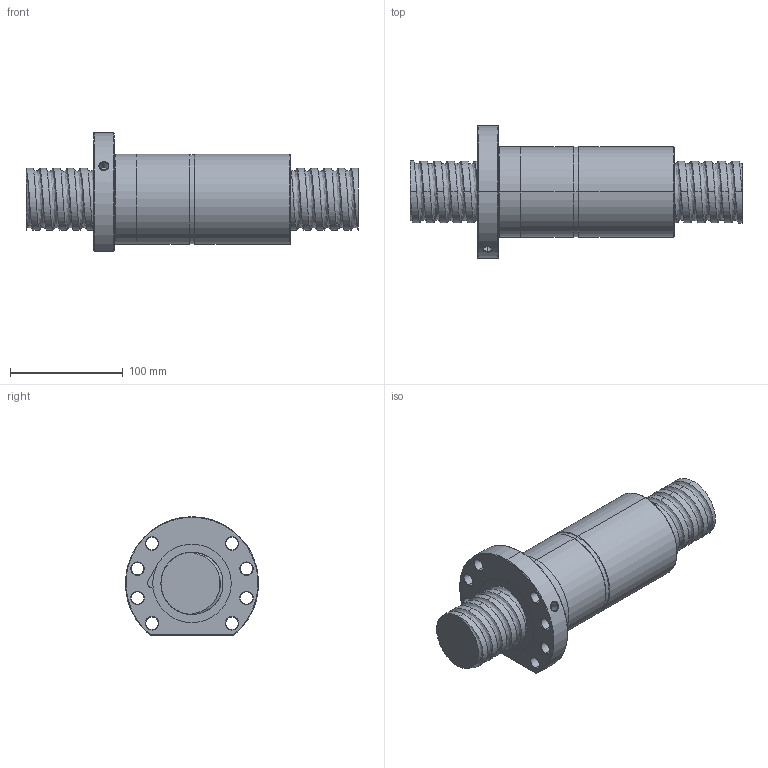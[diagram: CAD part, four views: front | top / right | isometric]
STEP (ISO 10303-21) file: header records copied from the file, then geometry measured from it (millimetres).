
FILE_DESCRIPTION (( 'STEP AP214' ), '1' );
FILE_NAME ('FDDC05512T5-F-B.STEP', '2010-07-07T01:35:22', ( 'XPAUTO' ), ( 'XPAUTO' ), 'SwSTEP 2.0', 'SolidWorks 2007', '' );
FILE_SCHEMA (( 'AUTOMOTIVE_DESIGN' ));
Length unit declared in the file: millimetre
Products named in the file (3): FDDC05512T5-F-B.sldasm-Part-2_預設; FDDC05512T5-F-B.sldasm-Part-1_預設; FDDC05512T5-F-B
Assembly tree (2 placements, depth 2):
  FDDC05512T5-F-B
    FDDC05512T5-F-B.sldasm-Part-1_預設
    FDDC05512T5-F-B.sldasm-Part-2_預設
Bounding box: 294 x 117.69 x 105 mm (x, y, z)
Volume: 1186092.4 mm3; surface area: 159867.2 mm2
Topology: 2 solids, 2 shells, 159 faces, 398 edges, 248 vertices
Faces by surface type: cylinder 94, cone 32, plane 19, torus 9, bspline 5
Entity records: 47351 total; most frequent: CARTESIAN_POINT 43587, ORIENTED_EDGE 796, DIRECTION 728, EDGE_CURVE 398, AXIS2_PLACEMENT_3D 295, VERTEX_POINT 248, EDGE_LOOP 184, FACE_OUTER_BOUND 159
